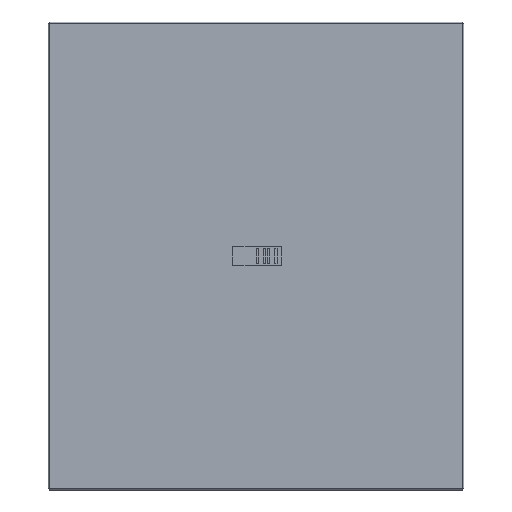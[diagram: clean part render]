
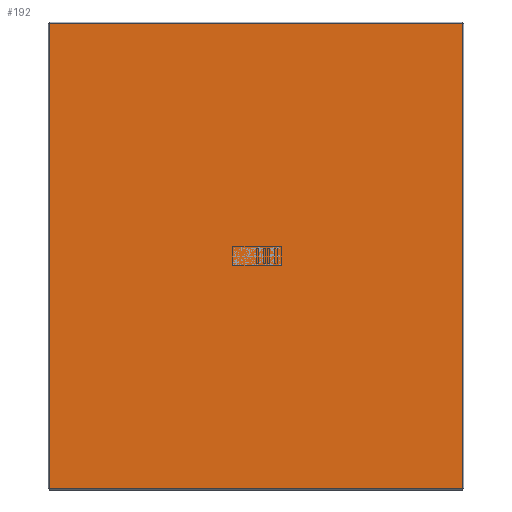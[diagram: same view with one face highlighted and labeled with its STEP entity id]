
A CAD part, top view. The second image highlights one B-rep face of the part: STEP entity #192.
In plain terms, the highlighted planar face has unit normal (0, 0, 1).
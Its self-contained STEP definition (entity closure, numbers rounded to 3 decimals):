
#192 = ADVANCED_FACE( '', ( #282 ), #283, .F. );
#282 = FACE_OUTER_BOUND( '', #466, .T. );
#283 = PLANE( '', #467 );
#466 = EDGE_LOOP( '', ( #809, #810, #811, #812 ) );
#467 = AXIS2_PLACEMENT_3D( '', #813, #814, #815 );
#809 = ORIENTED_EDGE( '', *, *, #1454, .T. );
#810 = ORIENTED_EDGE( '', *, *, #1455, .T. );
#811 = ORIENTED_EDGE( '', *, *, #1456, .T. );
#812 = ORIENTED_EDGE( '', *, *, #1457, .T. );
#813 = CARTESIAN_POINT( '', ( -355.6, 400.05, 0. ) );
#814 = DIRECTION( '', ( 0., 0., -1. ) );
#815 = DIRECTION( '', ( -1., 0., 0. ) );
#1454 = EDGE_CURVE( '', #1664, #1665, #1666, .T. );
#1455 = EDGE_CURVE( '', #1665, #1659, #1667, .T. );
#1456 = EDGE_CURVE( '', #1659, #1668, #1669, .T. );
#1457 = EDGE_CURVE( '', #1668, #1664, #1670, .T. );
#1659 = VERTEX_POINT( '', #1986 );
#1664 = VERTEX_POINT( '', #1992 );
#1665 = VERTEX_POINT( '', #1993 );
#1666 = LINE( '', #1994, #1995 );
#1667 = LINE( '', #1996, #1997 );
#1668 = VERTEX_POINT( '', #1998 );
#1669 = LINE( '', #1999, #2000 );
#1670 = LINE( '', #2001, #2002 );
#1986 = CARTESIAN_POINT( '', ( -353.416, -397.866, 0. ) );
#1992 = CARTESIAN_POINT( '', ( 353.416, 397.866, 0. ) );
#1993 = CARTESIAN_POINT( '', ( -353.416, 397.866, 0. ) );
#1994 = CARTESIAN_POINT( '', ( 355.6, 397.866, 0. ) );
#1995 = VECTOR( '', #2622, 1000. );
#1996 = CARTESIAN_POINT( '', ( -353.416, 397.866, 0. ) );
#1997 = VECTOR( '', #2623, 1000. );
#1998 = CARTESIAN_POINT( '', ( 353.416, -397.866, 0. ) );
#1999 = CARTESIAN_POINT( '', ( -355.6, -397.866, 0. ) );
#2000 = VECTOR( '', #2624, 1000. );
#2001 = CARTESIAN_POINT( '', ( 353.416, -397.866, 0. ) );
#2002 = VECTOR( '', #2625, 1000. );
#2622 = DIRECTION( '', ( -1., 0., 0. ) );
#2623 = DIRECTION( '', ( 0., -1., 0. ) );
#2624 = DIRECTION( '', ( 1., 0., 0. ) );
#2625 = DIRECTION( '', ( 0., 1., 0. ) );
